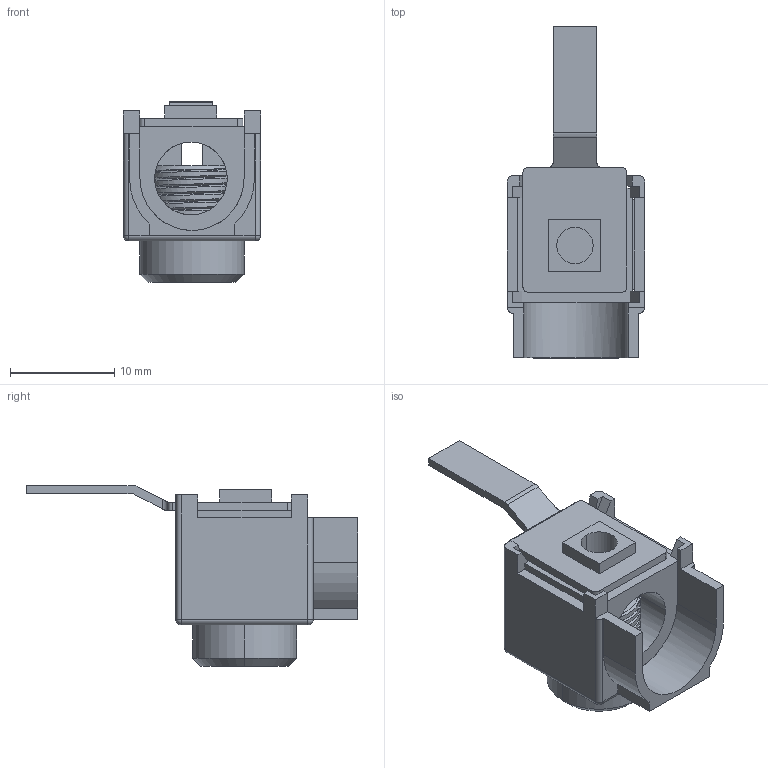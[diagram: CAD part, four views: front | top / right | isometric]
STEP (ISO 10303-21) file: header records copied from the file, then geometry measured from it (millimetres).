
FILE_DESCRIPTION (( 'STEP AP203' ), '1' );
FILE_NAME ('AL-BR.STEP', '2021-09-10T13:51:00', ( 'Usuário do Windows' ), ( 'WEG Equipamentos Elétricos' ), 'SwSTEP 2.0', 'SolidWorks 2018', '' );
FILE_SCHEMA (( 'CONFIG_CONTROL_DESIGN' ));
Length unit declared in the file: millimetre
Products named in the file (2): AL-BR
Bounding box: 13.2 x 31.9 x 17.4 mm (x, y, z)
Volume: 1737.6 mm3; surface area: 2554.9 mm2
Topology: 1 solids, 1 shells, 251 faces, 749 edges, 492 vertices
Faces by surface type: plane 110, cylinder 64, bspline 48, cone 21, torus 4, sphere 4
Entity records: 25508 total; most frequent: CARTESIAN_POINT 19356, ORIENTED_EDGE 1490, DIRECTION 980, EDGE_CURVE 745, VERTEX_POINT 492, LINE 350, VECTOR 350, AXIS2_PLACEMENT_3D 315
